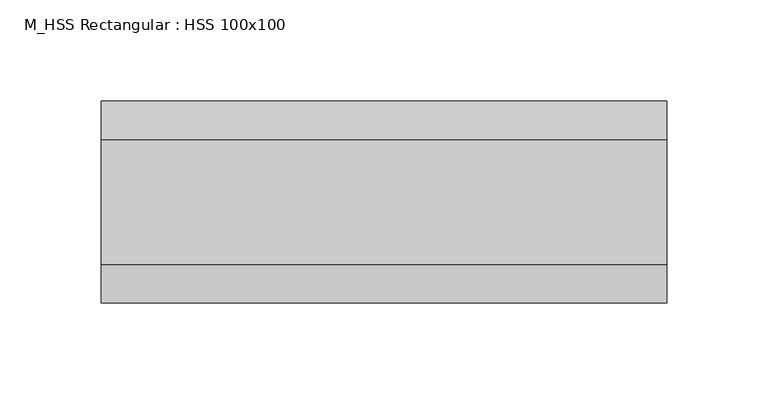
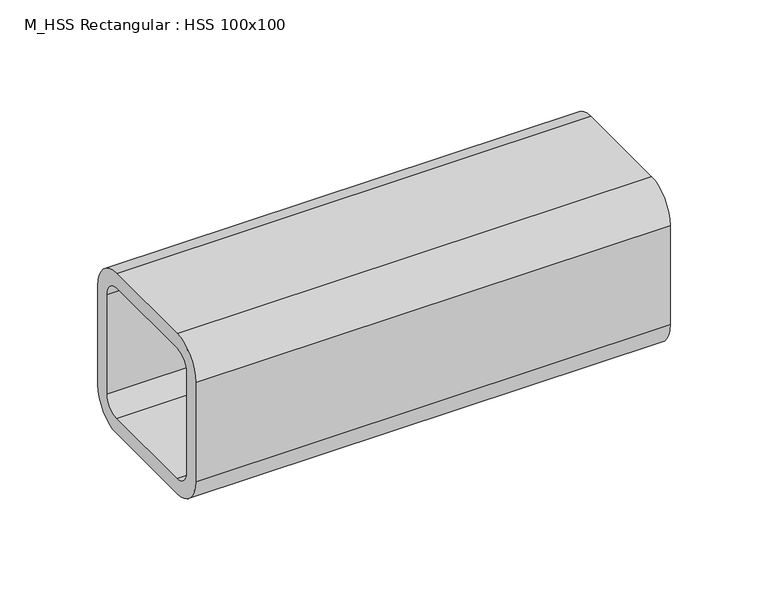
"""IFC4 building model written with IfcOpenShell, lengths in millimetres: beam geometry, M_HSS Rectangular : HSS 100x100."""

from ifc_helpers import new_model, si_unit, point, frame, frame_2d, origin, place, context, project, spatial, polyline, circle_curve, trimmed, segment, composite_curve, outline, extrude, source, transform, mapped, element, save


def m_hss_rectangular_hss_100x100_b3e0954c(model_context):
    return source(origin(), model_context, "Body", "SweptSolid", [
        extrude(outline(composite_curve([segment(polyline([(50.0, 30.94), (50.0, -30.94)]), True, "CONTINUOUS"), segment(trimmed(circle_curve(frame_2d((30.94, -30.94)), 19.06), [point((50.0, -30.94))], [point((30.94, -50.0))], False, "CARTESIAN"), True, "CONTINUOUS"), segment(polyline([(30.94, -50.0), (-30.94, -50.0)]), True, "CONTINUOUS"), segment(trimmed(circle_curve(frame_2d((-30.94, -30.94)), 19.06), [point((-30.94, -50.0))], [point((-50.0, -30.94))], False, "CARTESIAN"), True, "CONTINUOUS"), segment(polyline([(-50.0, -30.94), (-50.0, 30.94)]), True, "CONTINUOUS"), segment(trimmed(circle_curve(frame_2d((-30.94, 30.94)), 19.06), [point((-50.0, 30.94))], [point((-30.94, 50.0))], False, "CARTESIAN"), True, "CONTINUOUS"), segment(polyline([(-30.94, 50.0), (30.94, 50.0)]), True, "CONTINUOUS"), segment(trimmed(circle_curve(frame_2d((30.94, 30.94)), 19.06), [point((30.94, 50.0))], [point((50.0, 30.94))], False, "CARTESIAN"), True, "CONTINUOUS")], self_intersect=False), holes=[composite_curve([segment(trimmed(circle_curve(frame_2d((-30.94, 30.94)), 9.53), [point((-30.94, 40.47))], [point((-40.47, 30.94))], True, "CARTESIAN"), True, "CONTINUOUS"), segment(polyline([(-40.47, 30.94), (-40.47, -30.94)]), True, "CONTINUOUS"), segment(trimmed(circle_curve(frame_2d((-30.94, -30.94)), 9.53), [point((-40.47, -30.94))], [point((-30.94, -40.47))], True, "CARTESIAN"), True, "CONTINUOUS"), segment(polyline([(-30.94, -40.47), (30.94, -40.47)]), True, "CONTINUOUS"), segment(trimmed(circle_curve(frame_2d((30.94, -30.94)), 9.53), [point((30.94, -40.47))], [point((40.47, -30.94))], True, "CARTESIAN"), True, "CONTINUOUS"), segment(polyline([(40.47, -30.94), (40.47, 30.94)]), True, "CONTINUOUS"), segment(trimmed(circle_curve(frame_2d((30.94, 30.94)), 9.53), [point((40.47, 30.94))], [point((30.94, 40.47))], True, "CARTESIAN"), True, "CONTINUOUS"), segment(polyline([(30.94, 40.47), (-30.94, 40.47)]), True, "CONTINUOUS")], self_intersect=False)]), frame((-139.9, 0.0, 0.0), z_axis=(1.0, 0.0, 0.0), x_axis=(0.0, 1.0, 0.0)), (0.0, 0.0, 1.0), 279.8),
    ])


if __name__ == "__main__":
    model = new_model("IFC4")
    model_context = context("Model", 3, world=origin())
    ifc_project = project(units=[si_unit("LENGTHUNIT", "METRE", prefix="MILLI")], contexts=[model_context])
    site = spatial("IfcSite", under=ifc_project)
    building = spatial("IfcBuilding", under=site)
    placement = place(None, origin())
    m_hss_rectangular_hss_100x100_shape = m_hss_rectangular_hss_100x100_b3e0954c(model_context)
    element("IfcBeam", 1, ObjectType="M_HSS Rectangular : HSS 100x100", at=placement, inside=building, context=model_context, shape_type="MappedRepresentation", body=[
        mapped(m_hss_rectangular_hss_100x100_shape, transform((0.0, 0.0, 0.0), x_axis=(1.0, 0.0, 0.0), y_axis=(0.0, 1.0, 0.0), z_axis=(0.0, 0.0, 1.0))),
    ])
    save(model, "model.ifc")
